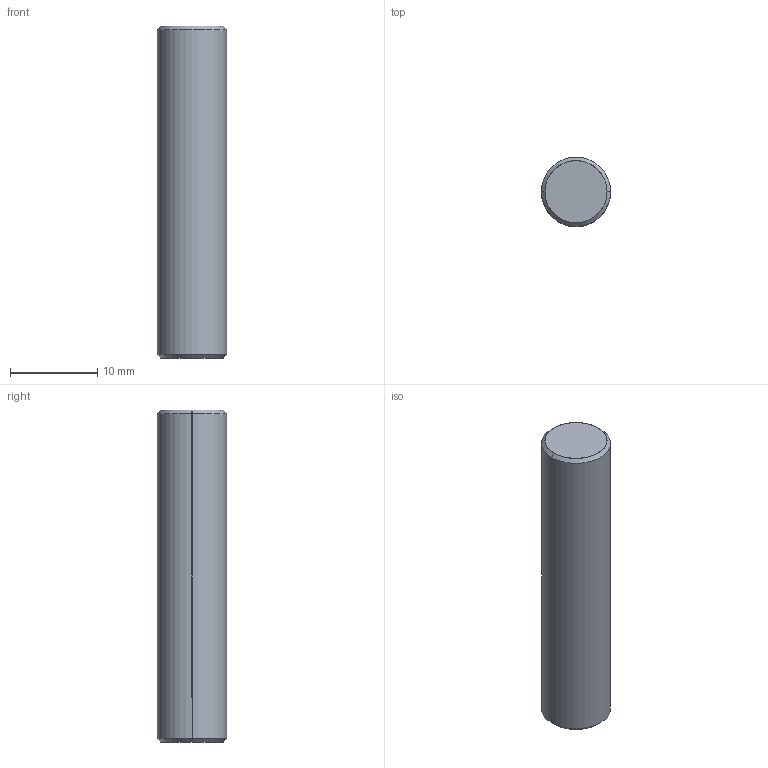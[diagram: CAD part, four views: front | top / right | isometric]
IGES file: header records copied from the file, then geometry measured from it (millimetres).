
Start section: SolidWorks IGES file using analytic representation for surfaces
Global section: file name: D:\Solid_parts\MECHeDESIGN\Bal-Tec\Catalog 105-A\Distribution\IGES\312-C.IGS; native system: SolidWorks 2005 by SolidWorks Corporation; preprocessor: SolidWorks 2005 by SolidWorks Corporation; author: rvillegas; date: 061204.225924; units: inch
Bounding box: 7.94 x 7.94 x 38.1 mm (x, y, z)
Surface area: 1036.7 mm2 (no closed solid volume)
Topology: 0 solids, 0 shells, 8 faces, 88 edges, 88 vertices
Faces by surface type: revolution 6, bspline 2
